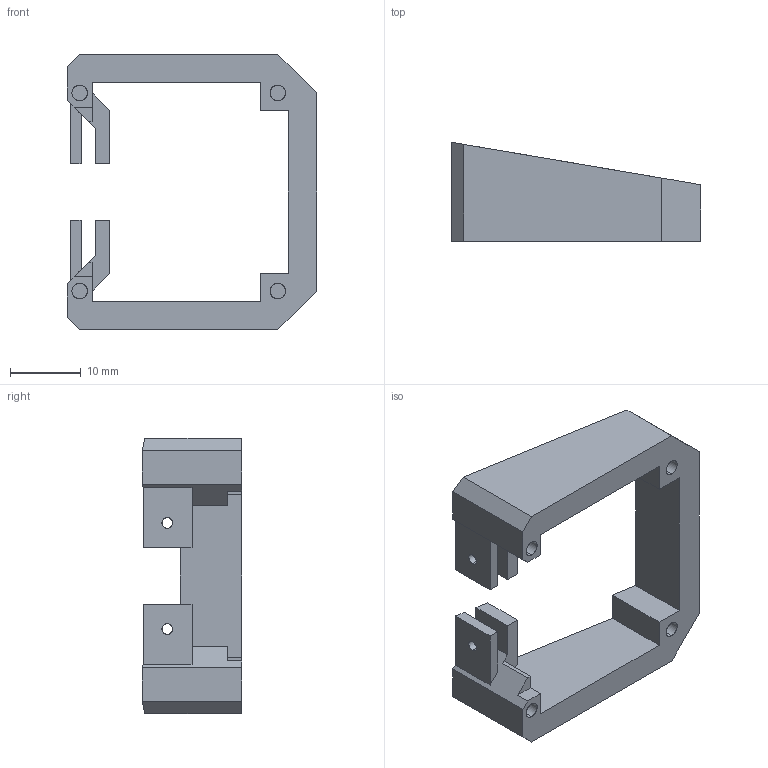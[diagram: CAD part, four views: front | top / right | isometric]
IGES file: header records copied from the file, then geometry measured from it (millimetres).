
Start section: SolidWorks IGES file using analytic representation for surfaces
Global section: file name: C:\Users\Adam\Dropbox\BR-Engineering\Models\CAMTILT-X4\CAMTILT-LOW-LIGHT-HD-USB-R1.IGS; native system: SolidWorks 2016; preprocessor: SolidWorks 2016; author: Adam; date: 170901.092928; units: millimetre
Bounding box: 35.25 x 14 x 39 mm (x, y, z)
Surface area: 3941.5 mm2 (no closed solid volume)
Topology: 0 solids, 0 shells, 66 faces, 776 edges, 776 vertices
Faces by surface type: bspline 50, revolution 16
